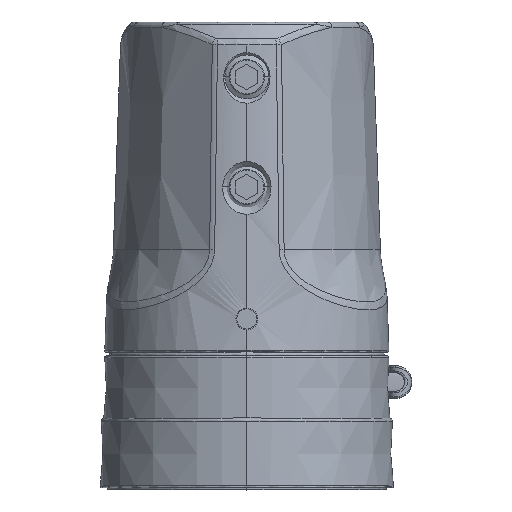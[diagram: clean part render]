
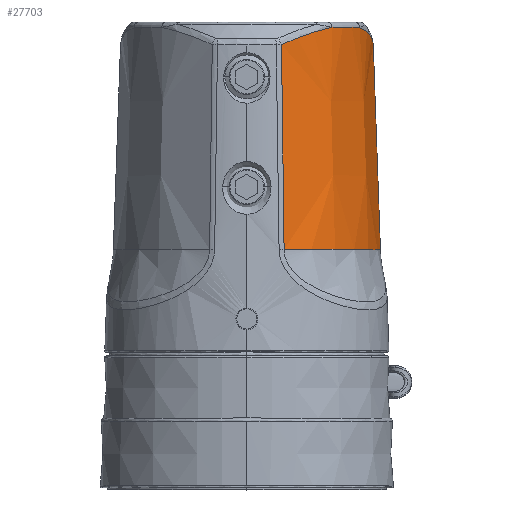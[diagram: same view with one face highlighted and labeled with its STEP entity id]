
A CAD part, top view. The second image highlights one B-rep face of the part: STEP entity #27703.
In plain terms, the highlighted conical face has half-angle 2 degrees and reference radius 53.166 mm.
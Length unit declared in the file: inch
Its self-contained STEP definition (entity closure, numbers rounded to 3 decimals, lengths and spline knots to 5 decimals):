
#258 = CARTESIAN_POINT ( 'NONE',  ( 0.39958, 1.10132, 1.42472 ) ) ;
#660 = CARTESIAN_POINT ( 'NONE',  ( 0.68319, 3.42241, 1.11795 ) ) ;
#1729 = CARTESIAN_POINT ( 'NONE',  ( 0.3907, 1.80003, 1.40164 ) ) ;
#2123 = ORIENTED_EDGE ( 'NONE', *, *, #5280, .F. ) ;
#2133 = EDGE_CURVE ( 'NONE', #32768, #9630, #22471, .T. ) ;
#2293 = CARTESIAN_POINT ( 'NONE',  ( 0.37196, 3.27981, 1.35268 ) ) ;
#3153 = DIRECTION ( 'NONE',  ( 0., 1., 0. ) ) ;
#5009 = CARTESIAN_POINT ( 'NONE',  ( 1.35668, 3.30143, -0.35409 ) ) ;
#5280 = EDGE_CURVE ( 'NONE', #13063, #9630, #9297, .T. ) ;
#5427 = AXIS2_PLACEMENT_3D ( 'NONE', #23674, #3153, #34581 ) ;
#6134 = EDGE_CURVE ( 'NONE', #21251, #22900, #16242, .T. ) ;
#7538 = CARTESIAN_POINT ( 'NONE',  ( 0.77717, 3.45218, 1.02655 ) ) ;
#7599 = CARTESIAN_POINT ( 'NONE',  ( 1.2666, 3.46314, 0.20497 ) ) ;
#7747 = CARTESIAN_POINT ( 'NONE',  ( 1.35503, 3.32457, -0.29045 ) ) ;
#7977 = CARTESIAN_POINT ( 'NONE',  ( 0.86711, 3.47636, 0.92766 ) ) ;
#8034 = VERTEX_POINT ( 'NONE', #258 ) ;
#9297 =( BOUNDED_CURVE ( )  B_SPLINE_CURVE ( 3, ( #34828, #38233, #7599, #14494, #41800, #7747, #41640 ),
 .UNSPECIFIED., .F., .T. ) 
 B_SPLINE_CURVE_WITH_KNOTS ( ( 4, 1, 1, 1, 4 ),
 ( 0., 0.18566, 0.46242, 0.73054, 1. ),
 .UNSPECIFIED. ) 
 CURVE ( )  GEOMETRIC_REPRESENTATION_ITEM ( )  RATIONAL_B_SPLINE_CURVE ( ( 1.03, 1.03, 1.03, 1.03, 1.03, 1.03, 1.03 ) ) 
 REPRESENTATION_ITEM ( '' )  );
#9630 = VERTEX_POINT ( 'NONE', #12537 ) ;
#10843 = DIRECTION ( 'NONE',  ( 0., -1., 0. ) ) ;
#10962 = CARTESIAN_POINT ( 'NONE',  ( 0.76704, 3.44918, 1.03696 ) ) ;
#11407 = CARTESIAN_POINT ( 'NONE',  ( 0.81129, 3.46195, 0.99057 ) ) ;
#11982 = CARTESIAN_POINT ( 'NONE',  ( 0.62036, 3.40034, 1.17286 ) ) ;
#12130 = CARTESIAN_POINT ( 'NONE',  ( 0.5455, 3.37319, 1.23575 ) ) ;
#12350 = CARTESIAN_POINT ( 'NONE',  ( 0.91348, 3.48631, 0.87042 ) ) ;
#12537 = CARTESIAN_POINT ( 'NONE',  ( 1.35668, 3.30143, -0.35409 ) ) ;
#12888 = AXIS2_PLACEMENT_3D ( 'NONE', #31503, #10843, #24791 ) ;
#13063 = VERTEX_POINT ( 'NONE', #21585 ) ;
#13288 = AXIS2_PLACEMENT_3D ( 'NONE', #40241, #20236, #36812 ) ;
#14426 = CARTESIAN_POINT ( 'NONE',  ( 0.63147, 3.40435, 1.16347 ) ) ;
#14494 = CARTESIAN_POINT ( 'NONE',  ( 1.31322, 3.42415, 0.03162 ) ) ;
#14498 = CIRCLE ( 'NONE', #13288, 2.00986 ) ;
#14551 = ORIENTED_EDGE ( 'NONE', *, *, #26972, .T. ) ;
#14878 = CARTESIAN_POINT ( 'NONE',  ( 0.76849, 3.44961, 1.03547 ) ) ;
#14973 = FACE_OUTER_BOUND ( 'NONE', #40884, .T. ) ;
#15172 = CARTESIAN_POINT ( 'NONE',  ( 0.62102, 3.40058, 1.17231 ) ) ;
#15635 = CARTESIAN_POINT ( 'NONE',  ( 0.38168, 2.51177, 1.37811 ) ) ;
#16242 = B_SPLINE_CURVE_WITH_KNOTS ( 'NONE', 3,
 ( #38471, #38623, #7977, #31926, #11407, #41582, #7538, #35359, #14878, #10962, #17564, #41434, #21008, #27902, #21161, #660, #31472, #34915, #14426, #38311, #17867, #41733, #15172, #42319, #11982, #12130, #21910, #42598 ),
 .UNSPECIFIED., .F., .F.,
 ( 4, 2, 1, 1, 1, 1, 1, 1, 2, 2, 2, 1, 1, 1, 1, 1, 1, 2, 2, 4 ),
 ( 0., 0.125, 0.1875, 0.21875, 0.23438, 0.24219, 0.24609, 0.24805, 0.24902, 0.25, 0.375, 0.4375, 0.46875, 0.48438, 0.49219, 0.49609, 0.49805, 0.49902, 0.5, 1. ),
 .UNSPECIFIED. ) ;
#17564 = CARTESIAN_POINT ( 'NONE',  ( 0.76642, 3.44899, 1.03759 ) ) ;
#17867 = CARTESIAN_POINT ( 'NONE',  ( 0.62304, 3.40131, 1.17061 ) ) ;
#17967 = CARTESIAN_POINT ( 'NONE',  ( 1.43364, 1.10132, -0.36631 ) ) ;
#18504 = CARTESIAN_POINT ( 'NONE',  ( 1.40739, 1.85221, -0.36218 ) ) ;
#18790 = CARTESIAN_POINT ( 'NONE',  ( 0.39958, 1.10132, 1.42472 ) ) ;
#20236 = DIRECTION ( 'NONE',  ( 0., 1., 0. ) ) ;
#21008 = CARTESIAN_POINT ( 'NONE',  ( 0.76576, 3.44879, 1.03826 ) ) ;
#21161 = CARTESIAN_POINT ( 'NONE',  ( 0.71953, 3.43453, 1.08429 ) ) ;
#21251 = VERTEX_POINT ( 'NONE', #12350 ) ;
#21430 =( BOUNDED_CURVE ( )  B_SPLINE_CURVE ( 3, ( #18790, #22229, #1729, #15635, #43816, #2293, #26246 ),
 .UNSPECIFIED., .F., .F. ) 
 B_SPLINE_CURVE_WITH_KNOTS ( ( 4, 1, 1, 1, 4 ),
 ( 0., 0.3193, 0.63343, 0.97051, 1. ),
 .UNSPECIFIED. ) 
 CURVE ( )  GEOMETRIC_REPRESENTATION_ITEM ( )  RATIONAL_B_SPLINE_CURVE ( ( 1.006, 1.006, 1.006, 1.006, 1.006, 1.006, 1.006 ) ) 
 REPRESENTATION_ITEM ( '' )  );
#21585 = CARTESIAN_POINT ( 'NONE',  ( 1.21055, 3.48631, 0.35589 ) ) ;
#21910 = CARTESIAN_POINT ( 'NONE',  ( 0.46277, 3.34024, 1.29619 ) ) ;
#22229 = CARTESIAN_POINT ( 'NONE',  ( 0.3966, 1.33549, 1.41699 ) ) ;
#22471 = B_SPLINE_CURVE_WITH_KNOTS ( 'NONE', 3,
 ( #38941, #18504, #32249, #5009 ),
 .UNSPECIFIED., .F., .F.,
 ( 4, 4 ),
 ( 0., 1. ),
 .UNSPECIFIED. ) ;
#22900 = VERTEX_POINT ( 'NONE', #32425 ) ;
#23674 = CARTESIAN_POINT ( 'NONE',  ( -0.65946, 1.10132, -0.38074 ) ) ;
#24081 = CIRCLE ( 'NONE', #5427, 2.09315 ) ;
#24791 = DIRECTION ( 'NONE',  ( 0., 0., -1. ) ) ;
#26246 = CARTESIAN_POINT ( 'NONE',  ( 0.37169, 3.30143, 1.35197 ) ) ;
#26972 = EDGE_CURVE ( 'NONE', #8034, #32768, #24081, .T. ) ;
#27703 = ADVANCED_FACE ( 'NONE', ( #14973 ), #35809, .T. ) ;
#27902 = CARTESIAN_POINT ( 'NONE',  ( 0.74295, 3.44196, 1.0615 ) ) ;
#29313 = ORIENTED_EDGE ( 'NONE', *, *, #41591, .F. ) ;
#31472 = CARTESIAN_POINT ( 'NONE',  ( 0.66472, 3.41611, 1.13466 ) ) ;
#31503 = CARTESIAN_POINT ( 'NONE',  ( -0.65946, 1.10132, -0.38074 ) ) ;
#31926 = CARTESIAN_POINT ( 'NONE',  ( 0.83014, 3.46697, 0.9697 ) ) ;
#32249 = CARTESIAN_POINT ( 'NONE',  ( 1.38174, 2.58558, -0.35811 ) ) ;
#32425 = CARTESIAN_POINT ( 'NONE',  ( 0.37169, 3.30143, 1.35197 ) ) ;
#32768 = VERTEX_POINT ( 'NONE', #17967 ) ;
#34545 = ORIENTED_EDGE ( 'NONE', *, *, #6134, .T. ) ;
#34581 = DIRECTION ( 'NONE',  ( 1., 0., 0. ) ) ;
#34828 = CARTESIAN_POINT ( 'NONE',  ( 1.21055, 3.48631, 0.35589 ) ) ;
#34915 = CARTESIAN_POINT ( 'NONE',  ( 0.64264, 3.40834, 1.15391 ) ) ;
#34931 = ORIENTED_EDGE ( 'NONE', *, *, #40617, .F. ) ;
#35359 = CARTESIAN_POINT ( 'NONE',  ( 0.77139, 3.45047, 1.0325 ) ) ;
#35809 = CONICAL_SURFACE ( 'NONE', #12888, 2.09315, 0.035 ) ;
#36812 = DIRECTION ( 'NONE',  ( 0.984, 0., 0.178 ) ) ;
#37282 = ORIENTED_EDGE ( 'NONE', *, *, #2133, .T. ) ;
#38233 = CARTESIAN_POINT ( 'NONE',  ( 1.22767, 3.48058, 0.31297 ) ) ;
#38311 = CARTESIAN_POINT ( 'NONE',  ( 0.62585, 3.40232, 1.16823 ) ) ;
#38471 = CARTESIAN_POINT ( 'NONE',  ( 0.91348, 3.48631, 0.87042 ) ) ;
#38623 = CARTESIAN_POINT ( 'NONE',  ( 0.89078, 3.48176, 0.89921 ) ) ;
#38941 = CARTESIAN_POINT ( 'NONE',  ( 1.43364, 1.10132, -0.36631 ) ) ;
#40241 = CARTESIAN_POINT ( 'NONE',  ( -0.65946, 3.48631, -0.38074 ) ) ;
#40617 = EDGE_CURVE ( 'NONE', #8034, #22900, #21430, .T. ) ;
#40884 = EDGE_LOOP ( 'NONE', ( #2123, #29313, #34545, #34931, #14551, #37282 ) ) ;
#41434 = CARTESIAN_POINT ( 'NONE',  ( 0.766, 3.44887, 1.03802 ) ) ;
#41582 = CARTESIAN_POINT ( 'NONE',  ( 0.78865, 3.45553, 1.01461 ) ) ;
#41591 = EDGE_CURVE ( 'NONE', #21251, #13063, #14498, .T. ) ;
#41640 = CARTESIAN_POINT ( 'NONE',  ( 1.35668, 3.30143, -0.35409 ) ) ;
#41733 = CARTESIAN_POINT ( 'NONE',  ( 0.62163, 3.4008, 1.1718 ) ) ;
#41800 = CARTESIAN_POINT ( 'NONE',  ( 1.3458, 3.36815, -0.16268 ) ) ;
#42319 = CARTESIAN_POINT ( 'NONE',  ( 0.62062, 3.40043, 1.17265 ) ) ;
#42598 = CARTESIAN_POINT ( 'NONE',  ( 0.37169, 3.30143, 1.35197 ) ) ;
#43816 = CARTESIAN_POINT ( 'NONE',  ( 0.37536, 3.01097, 1.36158 ) ) ;
